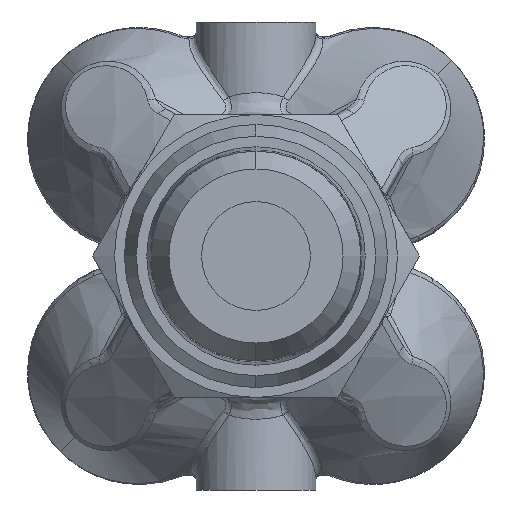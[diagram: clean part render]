
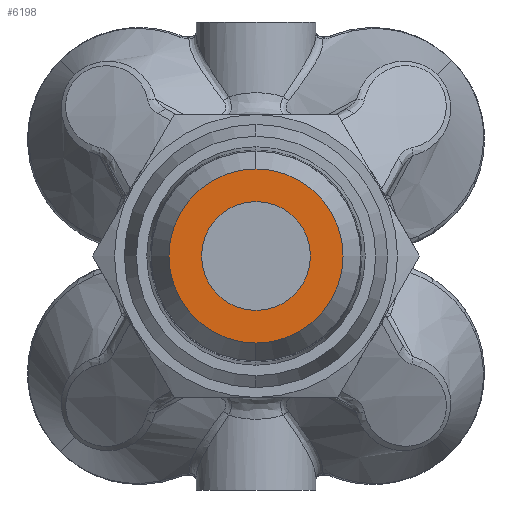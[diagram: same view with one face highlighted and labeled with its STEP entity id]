
A CAD part, front view. The second image highlights one B-rep face of the part: STEP entity #6198.
In plain terms, the highlighted planar face has unit normal (0, -1, 0).
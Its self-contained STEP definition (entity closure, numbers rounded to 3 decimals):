
#204 = ORIENTED_EDGE ( 'NONE', *, *, #28955, .F. ) ;
#206 = ORIENTED_EDGE ( 'NONE', *, *, #28898, .F. ) ;
#207 = ORIENTED_EDGE ( 'NONE', *, *, #28893, .F. ) ;
#209 = ORIENTED_EDGE ( 'NONE', *, *, #28956, .F. ) ;
#2790 = PLANE ( 'NONE',  #2953 ) ;
#2797 = CARTESIAN_POINT ( 'NONE',  ( 0., -12., 0. ) ) ;
#2798 = DIRECTION ( 'NONE',  ( 0., 1., 0. ) ) ;
#2799 = DIRECTION ( 'NONE',  ( 0., 0., 1. ) ) ;
#2953 = AXIS2_PLACEMENT_3D ( 'NONE', #2797, #2798, #2799 ) ;
#3704 = FACE_BOUND ( 'NONE', #18359, .T. ) ;
#3711 = FACE_OUTER_BOUND ( 'NONE', #18386, .T. ) ;
#6198 = ADVANCED_FACE ( 'NONE', ( #3704, #3711 ), #2790, .F. ) ;
#10468 = VERTEX_POINT ( 'NONE', #23280 ) ;
#10469 = VERTEX_POINT ( 'NONE', #23281 ) ;
#10473 = VERTEX_POINT ( 'NONE', #23285 ) ;
#10483 = VERTEX_POINT ( 'NONE', #23295 ) ;
#18359 = EDGE_LOOP ( 'NONE', ( #204, #206 ) ) ;
#18386 = EDGE_LOOP ( 'NONE', ( #207, #209 ) ) ;
#23280 = CARTESIAN_POINT ( 'NONE',  ( 0., -12., -2.5 ) ) ;
#23281 = CARTESIAN_POINT ( 'NONE',  ( 0., -12., 2.5 ) ) ;
#23285 = CARTESIAN_POINT ( 'NONE',  ( 0., -12., 4. ) ) ;
#23295 = CARTESIAN_POINT ( 'NONE',  ( 0., -12., -4. ) ) ;
#28893 = EDGE_CURVE ( 'NONE', #10473, #10483, #38796, .T. ) ;
#28898 = EDGE_CURVE ( 'NONE', #10469, #10468, #38810, .T. ) ;
#28955 = EDGE_CURVE ( 'NONE', #10468, #10469, #38868, .T. ) ;
#28956 = EDGE_CURVE ( 'NONE', #10483, #10473, #38870, .T. ) ;
#34134 = CARTESIAN_POINT ( 'NONE',  ( 0., -12., 0. ) ) ;
#34135 = DIRECTION ( 'NONE',  ( 0., 1., 0. ) ) ;
#34136 = DIRECTION ( 'NONE',  ( 0., 0., 1. ) ) ;
#34147 = CARTESIAN_POINT ( 'NONE',  ( 0., -12., 0. ) ) ;
#34148 = DIRECTION ( 'NONE',  ( 0., -1., 0. ) ) ;
#34149 = DIRECTION ( 'NONE',  ( 0., 0., -1. ) ) ;
#34185 = AXIS2_PLACEMENT_3D ( 'NONE', #34134, #34135, #34136 ) ;
#34187 = AXIS2_PLACEMENT_3D ( 'NONE', #34147, #34148, #34149 ) ;
#34209 = AXIS2_PLACEMENT_3D ( 'NONE', #43702, #43704, #43706 ) ;
#34210 = AXIS2_PLACEMENT_3D ( 'NONE', #43709, #43711, #43713 ) ;
#38796 = CIRCLE ( 'NONE', #34185, 4. ) ;
#38810 = CIRCLE ( 'NONE', #34187, 2.5 ) ;
#38868 = CIRCLE ( 'NONE', #34209, 2.5 ) ;
#38870 = CIRCLE ( 'NONE', #34210, 4. ) ;
#43702 = CARTESIAN_POINT ( 'NONE',  ( 0., -12., 0. ) ) ;
#43704 = DIRECTION ( 'NONE',  ( 0., -1., 0. ) ) ;
#43706 = DIRECTION ( 'NONE',  ( 0., 0., -1. ) ) ;
#43709 = CARTESIAN_POINT ( 'NONE',  ( 0., -12., 0. ) ) ;
#43711 = DIRECTION ( 'NONE',  ( 0., 1., 0. ) ) ;
#43713 = DIRECTION ( 'NONE',  ( 0., 0., 1. ) ) ;
